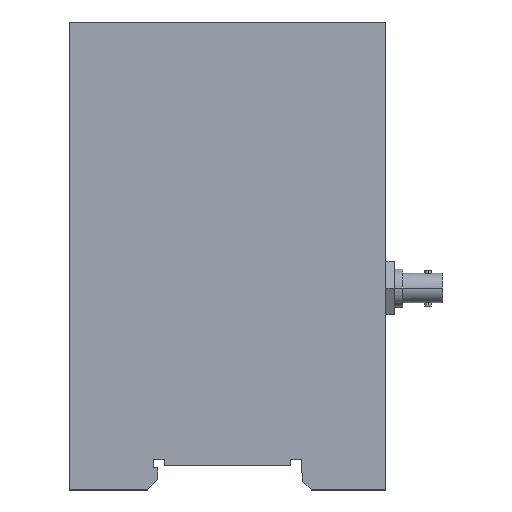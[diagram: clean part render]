
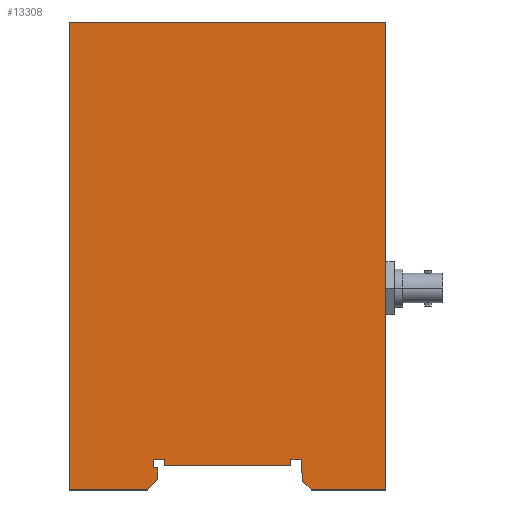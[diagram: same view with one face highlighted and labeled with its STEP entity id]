
A CAD part, top view. The second image highlights one B-rep face of the part: STEP entity #13308.
In plain terms, the highlighted planar face has unit normal (0, 0, 1).
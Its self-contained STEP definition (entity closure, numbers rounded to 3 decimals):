
#11 = CARTESIAN_POINT ( 'NONE',  ( 57.898, 44.915, 111.595 ) ) ;
#12 = CARTESIAN_POINT ( 'NONE',  ( 112.898, 52.115, 111.595 ) ) ;
#898 = CARTESIAN_POINT ( 'NONE',  ( 80.398, 50.615, 111.595 ) ) ;
#978 = DIRECTION ( 'NONE',  ( 0., 0., -1. ) ) ;
#1076 = EDGE_CURVE ( 'NONE', #12353, #12162, #5694, .T. ) ;
#1111 = DIRECTION ( 'NONE',  ( 0., -1., 0. ) ) ;
#1204 = VERTEX_POINT ( 'NONE', #4521 ) ;
#1466 = CARTESIAN_POINT ( 'NONE',  ( 78.898, 47.415, 111.595 ) ) ;
#1469 = VECTOR ( 'NONE', #12291, 1000. ) ;
#1547 = ORIENTED_EDGE ( 'NONE', *, *, #21517, .T. ) ;
#1574 = VECTOR ( 'NONE', #7789, 1000. ) ;
#1804 = ORIENTED_EDGE ( 'NONE', *, *, #13120, .T. ) ;
#1971 = VECTOR ( 'NONE', #3761, 1000. ) ;
#2062 = EDGE_CURVE ( 'NONE', #17584, #9474, #18225, .T. ) ;
#2351 = ORIENTED_EDGE ( 'NONE', *, *, #12284, .T. ) ;
#2378 = EDGE_LOOP ( 'NONE', ( #8679, #4122, #17031, #19395, #17766, #21163, #21571, #7378, #5338, #14852, #19233, #2351, #6922, #3830, #1804, #1547, #5394 ) ) ;
#2862 = CARTESIAN_POINT ( 'NONE',  ( 115.222, 44.915, 111.595 ) ) ;
#3272 = VECTOR ( 'NONE', #18880, 1000. ) ;
#3442 = LINE ( 'NONE', #11221, #20354 ) ;
#3538 = DIRECTION ( 'NONE',  ( 1., 0., 0. ) ) ;
#3761 = DIRECTION ( 'NONE',  ( 1., 0., 0. ) ) ;
#3830 = ORIENTED_EDGE ( 'NONE', *, *, #19785, .T. ) ;
#3980 = VERTEX_POINT ( 'NONE', #12251 ) ;
#4022 = CARTESIAN_POINT ( 'NONE',  ( 80.398, 50.615, 111.595 ) ) ;
#4059 = VECTOR ( 'NONE', #17683, 1000. ) ;
#4064 = CARTESIAN_POINT ( 'NONE',  ( 78.898, 47.415, 111.595 ) ) ;
#4074 = VECTOR ( 'NONE', #7222, 1000. ) ;
#4122 = ORIENTED_EDGE ( 'NONE', *, *, #21941, .T. ) ;
#4194 = DIRECTION ( 'NONE',  ( 0., -1., 0. ) ) ;
#4498 = CARTESIAN_POINT ( 'NONE',  ( 110.398, 50.615, 111.595 ) ) ;
#4521 = CARTESIAN_POINT ( 'NONE',  ( 132.898, 155.715, 111.595 ) ) ;
#4621 = CARTESIAN_POINT ( 'NONE',  ( 57.898, 155.715, 111.595 ) ) ;
#4886 = VECTOR ( 'NONE', #15172, 1000. ) ;
#5073 = CARTESIAN_POINT ( 'NONE',  ( 77.898, 50.115, 111.595 ) ) ;
#5121 = LINE ( 'NONE', #5580, #4059 ) ;
#5338 = ORIENTED_EDGE ( 'NONE', *, *, #7889, .T. ) ;
#5394 = ORIENTED_EDGE ( 'NONE', *, *, #9515, .T. ) ;
#5571 = CARTESIAN_POINT ( 'NONE',  ( 78.898, 50.115, 111.595 ) ) ;
#5580 = CARTESIAN_POINT ( 'NONE',  ( 115.222, 44.915, 111.595 ) ) ;
#5694 = LINE ( 'NONE', #1466, #5991 ) ;
#5701 = LINE ( 'NONE', #17263, #4074 ) ;
#5991 = VECTOR ( 'NONE', #6400, 1000. ) ;
#6036 = DIRECTION ( 'NONE',  ( -1., 0., 0. ) ) ;
#6079 = CARTESIAN_POINT ( 'NONE',  ( 76.398, 44.915, 111.595 ) ) ;
#6230 = DIRECTION ( 'NONE',  ( 1., 0., 0. ) ) ;
#6400 = DIRECTION ( 'NONE',  ( 0., 1., 0. ) ) ;
#6401 = VECTOR ( 'NONE', #21074, 1000. ) ;
#6922 = ORIENTED_EDGE ( 'NONE', *, *, #8046, .T. ) ;
#6927 = VECTOR ( 'NONE', #6036, 1000. ) ;
#7129 = LINE ( 'NONE', #13981, #17323 ) ;
#7196 = DIRECTION ( 'NONE',  ( 0.087, -0.996, 0. ) ) ;
#7222 = DIRECTION ( 'NONE',  ( 0., 1., 0. ) ) ;
#7378 = ORIENTED_EDGE ( 'NONE', *, *, #11019, .T. ) ;
#7599 = AXIS2_PLACEMENT_3D ( 'NONE', #9763, #978, #15005 ) ;
#7789 = DIRECTION ( 'NONE',  ( 0.707, 0.707, 0. ) ) ;
#7889 = EDGE_CURVE ( 'NONE', #17460, #15829, #3442, .T. ) ;
#7984 = LINE ( 'NONE', #21677, #6927 ) ;
#8046 = EDGE_CURVE ( 'NONE', #18495, #8179, #19550, .T. ) ;
#8179 = VERTEX_POINT ( 'NONE', #14485 ) ;
#8679 = ORIENTED_EDGE ( 'NONE', *, *, #2062, .T. ) ;
#9197 = CARTESIAN_POINT ( 'NONE',  ( 132.898, 44.915, 111.595 ) ) ;
#9474 = VERTEX_POINT ( 'NONE', #18731 ) ;
#9515 = EDGE_CURVE ( 'NONE', #1204, #17584, #12433, .T. ) ;
#9763 = CARTESIAN_POINT ( 'NONE',  ( 57.898, 44.915, 111.595 ) ) ;
#9817 = EDGE_CURVE ( 'NONE', #18399, #15065, #11321, .T. ) ;
#10481 = EDGE_CURVE ( 'NONE', #21262, #12353, #15008, .T. ) ;
#10630 = LINE ( 'NONE', #19423, #1469 ) ;
#10869 = VERTEX_POINT ( 'NONE', #21104 ) ;
#10875 = VECTOR ( 'NONE', #17852, 1000. ) ;
#11019 = EDGE_CURVE ( 'NONE', #10869, #17460, #12881, .T. ) ;
#11221 = CARTESIAN_POINT ( 'NONE',  ( 80.398, 50.615, 111.595 ) ) ;
#11321 = LINE ( 'NONE', #12, #14813 ) ;
#11484 = VECTOR ( 'NONE', #4194, 1000. ) ;
#11607 = CARTESIAN_POINT ( 'NONE',  ( 110.398, 52.115, 111.595 ) ) ;
#12051 = VECTOR ( 'NONE', #1111, 1000. ) ;
#12104 = VERTEX_POINT ( 'NONE', #2862 ) ;
#12162 = VERTEX_POINT ( 'NONE', #5571 ) ;
#12251 = CARTESIAN_POINT ( 'NONE',  ( 132.898, 44.915, 111.595 ) ) ;
#12284 = EDGE_CURVE ( 'NONE', #15065, #18495, #7129, .T. ) ;
#12291 = DIRECTION ( 'NONE',  ( 0., 1., 0. ) ) ;
#12353 = VERTEX_POINT ( 'NONE', #4064 ) ;
#12433 = LINE ( 'NONE', #22109, #3272 ) ;
#12767 = CARTESIAN_POINT ( 'NONE',  ( 57.898, 44.915, 111.595 ) ) ;
#12842 = VECTOR ( 'NONE', #7196, 1000. ) ;
#12881 = LINE ( 'NONE', #898, #12051 ) ;
#13120 = EDGE_CURVE ( 'NONE', #12104, #3980, #5121, .T. ) ;
#13225 = PLANE ( 'NONE',  #7599 ) ;
#13290 = LINE ( 'NONE', #11, #1971 ) ;
#13308 = ADVANCED_FACE ( 'NONE', ( #15861 ), #13225, .F. ) ;
#13570 = CARTESIAN_POINT ( 'NONE',  ( 112.898, 50.615, 111.595 ) ) ;
#13981 = CARTESIAN_POINT ( 'NONE',  ( 112.898, 50.615, 111.595 ) ) ;
#14160 = CARTESIAN_POINT ( 'NONE',  ( 80.398, 52.115, 111.595 ) ) ;
#14485 = CARTESIAN_POINT ( 'NONE',  ( 113.222, 46.915, 111.595 ) ) ;
#14811 = LINE ( 'NONE', #18637, #4886 ) ;
#14813 = VECTOR ( 'NONE', #3538, 1000. ) ;
#14852 = ORIENTED_EDGE ( 'NONE', *, *, #21474, .T. ) ;
#15005 = DIRECTION ( 'NONE',  ( -1., 0., 0. ) ) ;
#15008 = LINE ( 'NONE', #6079, #1574 ) ;
#15065 = VERTEX_POINT ( 'NONE', #15674 ) ;
#15172 = DIRECTION ( 'NONE',  ( 0.707, -0.707, 0. ) ) ;
#15674 = CARTESIAN_POINT ( 'NONE',  ( 112.898, 52.115, 111.595 ) ) ;
#15829 = VERTEX_POINT ( 'NONE', #4498 ) ;
#15861 = FACE_OUTER_BOUND ( 'NONE', #2378, .T. ) ;
#16146 = EDGE_CURVE ( 'NONE', #17299, #18305, #5701, .T. ) ;
#16789 = LINE ( 'NONE', #9197, #10875 ) ;
#17031 = ORIENTED_EDGE ( 'NONE', *, *, #10481, .T. ) ;
#17263 = CARTESIAN_POINT ( 'NONE',  ( 77.898, 52.115, 111.595 ) ) ;
#17299 = VERTEX_POINT ( 'NONE', #5073 ) ;
#17323 = VECTOR ( 'NONE', #17450, 1000. ) ;
#17399 = EDGE_CURVE ( 'NONE', #18305, #10869, #18987, .T. ) ;
#17450 = DIRECTION ( 'NONE',  ( 0., -1., 0. ) ) ;
#17460 = VERTEX_POINT ( 'NONE', #4022 ) ;
#17584 = VERTEX_POINT ( 'NONE', #4621 ) ;
#17683 = DIRECTION ( 'NONE',  ( 1., 0., 0. ) ) ;
#17766 = ORIENTED_EDGE ( 'NONE', *, *, #21129, .T. ) ;
#17852 = DIRECTION ( 'NONE',  ( 0., 1., 0. ) ) ;
#18000 = CARTESIAN_POINT ( 'NONE',  ( 77.898, 52.115, 111.595 ) ) ;
#18225 = LINE ( 'NONE', #12767, #11484 ) ;
#18305 = VERTEX_POINT ( 'NONE', #18000 ) ;
#18399 = VERTEX_POINT ( 'NONE', #11607 ) ;
#18495 = VERTEX_POINT ( 'NONE', #13570 ) ;
#18637 = CARTESIAN_POINT ( 'NONE',  ( 113.222, 46.915, 111.595 ) ) ;
#18731 = CARTESIAN_POINT ( 'NONE',  ( 57.898, 44.915, 111.595 ) ) ;
#18880 = DIRECTION ( 'NONE',  ( -1., 0., 0. ) ) ;
#18987 = LINE ( 'NONE', #14160, #6401 ) ;
#19011 = CARTESIAN_POINT ( 'NONE',  ( 112.898, 50.615, 111.595 ) ) ;
#19233 = ORIENTED_EDGE ( 'NONE', *, *, #9817, .T. ) ;
#19395 = ORIENTED_EDGE ( 'NONE', *, *, #1076, .T. ) ;
#19423 = CARTESIAN_POINT ( 'NONE',  ( 110.398, 52.115, 111.595 ) ) ;
#19550 = LINE ( 'NONE', #19011, #12842 ) ;
#19785 = EDGE_CURVE ( 'NONE', #8179, #12104, #14811, .T. ) ;
#20313 = CARTESIAN_POINT ( 'NONE',  ( 76.398, 44.915, 111.595 ) ) ;
#20354 = VECTOR ( 'NONE', #6230, 1000. ) ;
#21074 = DIRECTION ( 'NONE',  ( 1., 0., 0. ) ) ;
#21104 = CARTESIAN_POINT ( 'NONE',  ( 80.398, 52.115, 111.595 ) ) ;
#21129 = EDGE_CURVE ( 'NONE', #12162, #17299, #7984, .T. ) ;
#21163 = ORIENTED_EDGE ( 'NONE', *, *, #16146, .T. ) ;
#21262 = VERTEX_POINT ( 'NONE', #20313 ) ;
#21474 = EDGE_CURVE ( 'NONE', #15829, #18399, #10630, .T. ) ;
#21517 = EDGE_CURVE ( 'NONE', #3980, #1204, #16789, .T. ) ;
#21571 = ORIENTED_EDGE ( 'NONE', *, *, #17399, .T. ) ;
#21677 = CARTESIAN_POINT ( 'NONE',  ( 77.898, 50.115, 111.595 ) ) ;
#21941 = EDGE_CURVE ( 'NONE', #9474, #21262, #13290, .T. ) ;
#22109 = CARTESIAN_POINT ( 'NONE',  ( 57.898, 155.715, 111.595 ) ) ;
